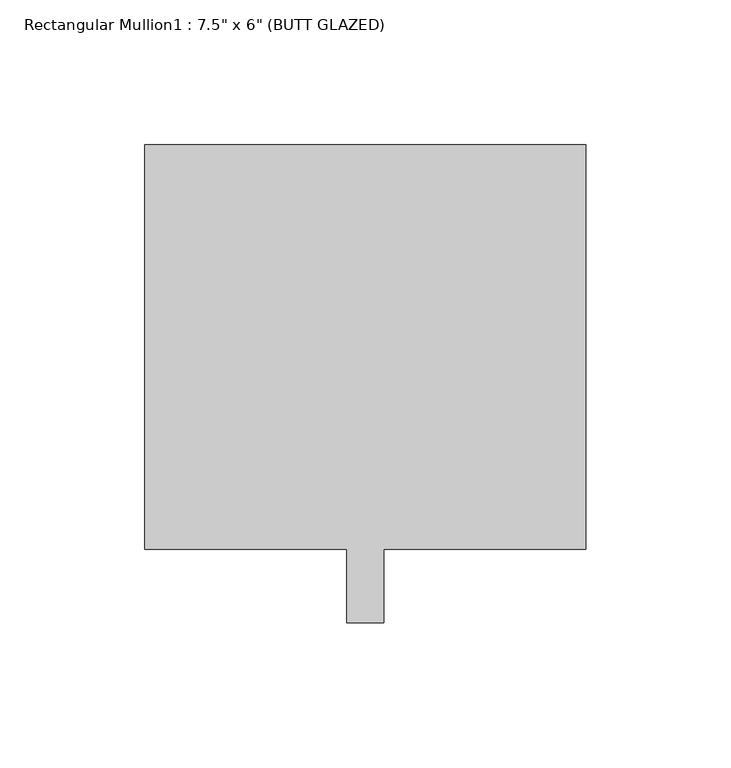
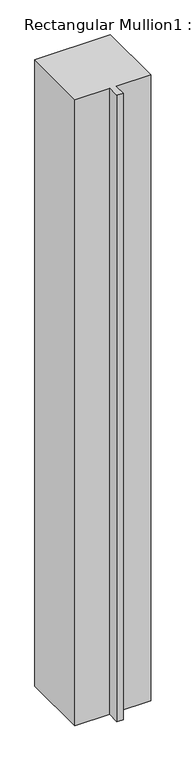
"""IFC4 building model written with IfcOpenShell, lengths in millimetres: member geometry."""

from ifc_helpers import new_model, si_unit, frame, origin, place, context, project, spatial, polyline, outline, extrude, source, transform, mapped, element, save


def member_82ba94c3(model_context):
    return source(origin(), model_context, "Body", "SweptSolid", [
        extrude(outline(polyline([(76.2, 165.1), (76.2, 25.4), (6.35, 25.4), (6.35, 0.0), (-6.35, 0.0), (-6.35, 25.4), (-76.2, 25.4), (-76.2, 165.1), (76.2, 165.1)])), frame((0.0, 0.0, -1334.7351639), z_axis=(0.0, 0.0, 1.0), x_axis=(1.0, 0.0, 0.0)), (0.0, 0.0, 1.0), 1334.7351639),
    ])


if __name__ == "__main__":
    model = new_model("IFC4")
    model_context = context("Model", 3, world=origin())
    ifc_project = project(units=[si_unit("LENGTHUNIT", "METRE", prefix="MILLI")], contexts=[model_context])
    site = spatial("IfcSite", under=ifc_project)
    building = spatial("IfcBuilding", under=site)
    placement = place(None, origin())
    member_shape = member_82ba94c3(model_context)
    element("IfcMember", 1, ObjectType="Rectangular Mullion1 : 7.5\" x 6\" (BUTT GLAZED)", at=placement, inside=building, context=model_context, shape_type="MappedRepresentation", body=[
        mapped(member_shape, transform((0.0, 0.0, 0.0), x_axis=(1.0, 0.0, 0.0), y_axis=(0.0, 1.0, 0.0), z_axis=(0.0, 0.0, 1.0))),
    ])
    save(model, "model.ifc")
